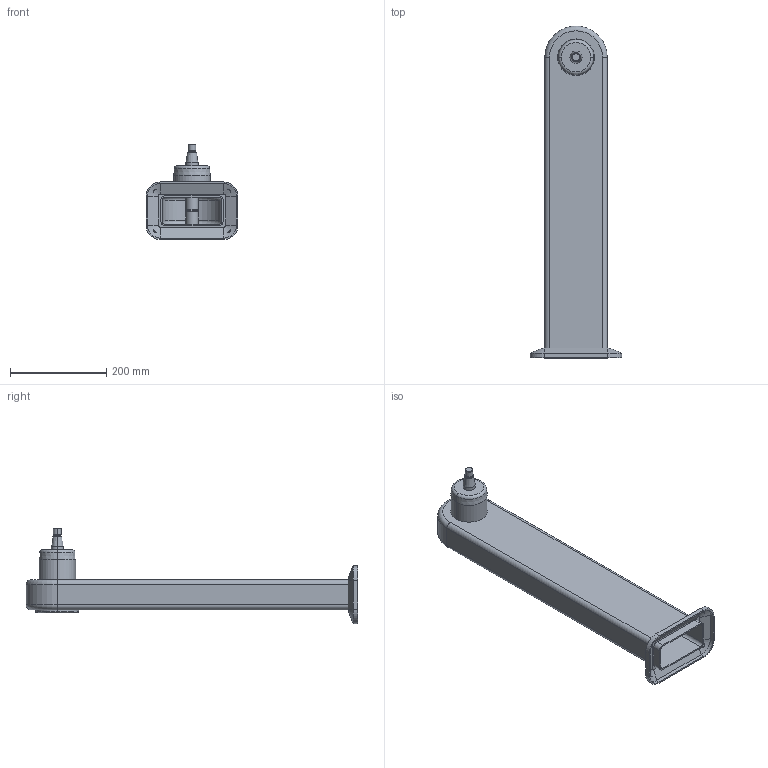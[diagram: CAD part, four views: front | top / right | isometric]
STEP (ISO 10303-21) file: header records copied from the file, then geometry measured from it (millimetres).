
FILE_DESCRIPTION (( 'STEP AP214' ), '1' );
FILE_NAME ('WP710_H625_+00.STEP', '2014-06-27T07:02:45', ( '' ), ( '' ), 'SwSTEP 2.0', 'SolidWorks 2014', '' );
FILE_SCHEMA (( 'AUTOMOTIVE_DESIGN' ));
Length unit declared in the file: millimetre
Products named in the file (1): WP710_H625_+00
Bounding box: 191 x 690 x 198 mm (x, y, z)
Volume: 1156035.1 mm3; surface area: 555852.1 mm2
Topology: 1 solids, 1 shells, 110 faces, 244 edges, 148 vertices
Faces by surface type: cylinder 42, plane 40, cone 20, torus 8
Entity records: 3157 total; most frequent: CARTESIAN_POINT 608, DIRECTION 570, ORIENTED_EDGE 488, EDGE_CURVE 244, AXIS2_PLACEMENT_3D 221, VERTEX_POINT 148, LINE 128, VECTOR 128
